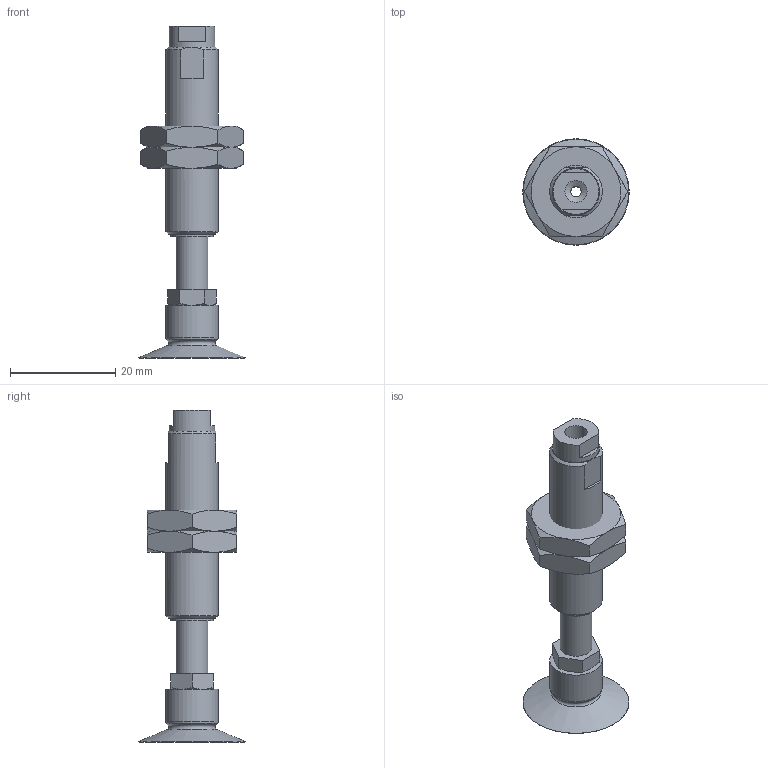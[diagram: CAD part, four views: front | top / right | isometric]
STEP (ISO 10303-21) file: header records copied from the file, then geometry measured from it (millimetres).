
FILE_DESCRIPTION(('STEP AP203'),'1');
FILE_NAME('-LB.stp','2025-04-01T04:56:18',(' '),(' '),'Spatial InterOp 3D',' ',' ');
FILE_SCHEMA(('CONFIG_CONTROL_DESIGN'));
Length unit declared in the file: millimetre
Products named in the file (8): BNABPATH-20A-10-※-LB; __; BODY; NUT; TN-PS-10-M5; Setting screws-TN-PS-10-M5; BPAG-20A-※
Assembly tree (7 placements, depth 3):
  BNABPATH-20A-10-※-LB
    __
    BODY
    NUT
    NUT
    TN-PS-10-M5
      Setting screws-TN-PS-10-M5
    BPAG-20A-※
Bounding box: 20.19 x 20.19 x 63 mm (x, y, z)
Volume: 5366.5 mm3; surface area: 4908 mm2
Topology: 6 solids, 6 shells, 162 faces, 321 edges, 197 vertices
Faces by surface type: plane 76, cone 41, cylinder 36, torus 9
Full cylindrical faces by diameter (mm): 0.9 x4, 1.1 x14, 2 x3, 3.9 x1, 4 x2, 4.2 x2, 5 x1, 6 x3, 8 x1, 8.7 x1, 9 x2, 10 x2
Entity records: 4334 total; most frequent: CARTESIAN_POINT 849, DIRECTION 668, ORIENTED_EDGE 516, AXIS2_PLACEMENT_3D 303, EDGE_CURVE 258, EDGE_LOOP 254, FACE_OUTER_BOUND 207, VERTEX_POINT 188
